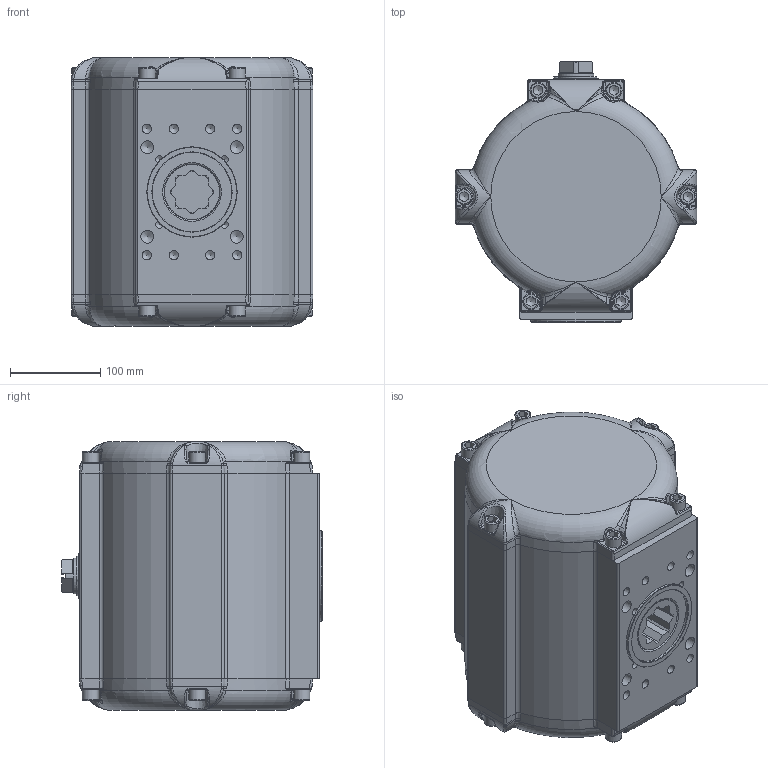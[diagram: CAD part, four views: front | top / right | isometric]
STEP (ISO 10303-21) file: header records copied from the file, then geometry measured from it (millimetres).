
FILE_DESCRIPTION((''),'2;1');
FILE_NAME('Z:\DOKUMENTATION ANTRIEBSPROGRAMM\Antriebe (neu)\BR16_SAD_SAF_90°\STEP-Dateien\40\SAD_40_BR16.stp','2017-06-27T08:59:37',('vmi'),(''),'Autodesk Inventor 2013','Autodesk Inventor 2013','');
FILE_SCHEMA(('AUTOMOTIVE_DESIGN { 1 0 10303 214 1 1 1 1 }'));
Length unit declared in the file: millimetre
Products named in the file (1): ENG-084101_Shrinkwrap_1
Bounding box: 268 x 289 x 298 mm (x, y, z)
Surface area: 501223 mm2 (no closed solid volume)
Topology: 0 solids, 33 shells, 667 faces, 2192 edges, 1493 vertices
Faces by surface type: plane 206, bspline 181, cylinder 177, cone 61, torus 42
Full cylindrical faces by diameter (mm): 4.134 x8, 4.917 x1, 8 x1, 8.376 x6, 10.106 x8, 11.445 x1, 14.376 x4, 18 x12, 37 x2, 39.8 x1, 60 x1, 88 x1, 100 x1, 216 x1
Entity records: 31412 total; most frequent: CARTESIAN_POINT 14142, ORIENTED_EDGE 3380, DIRECTION 2840, EDGE_CURVE 2027, VERTEX_POINT 1446, AXIS2_PLACEMENT_3D 1121, EDGE_LOOP 829, B_SPLINE_CURVE_WITH_KNOTS 702
